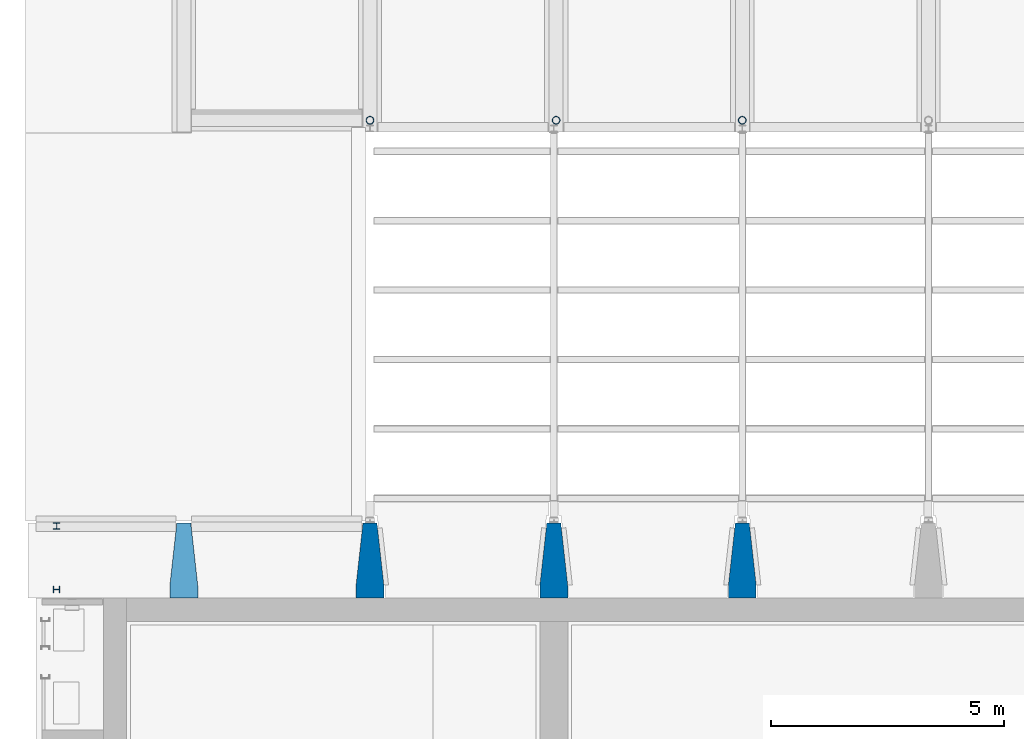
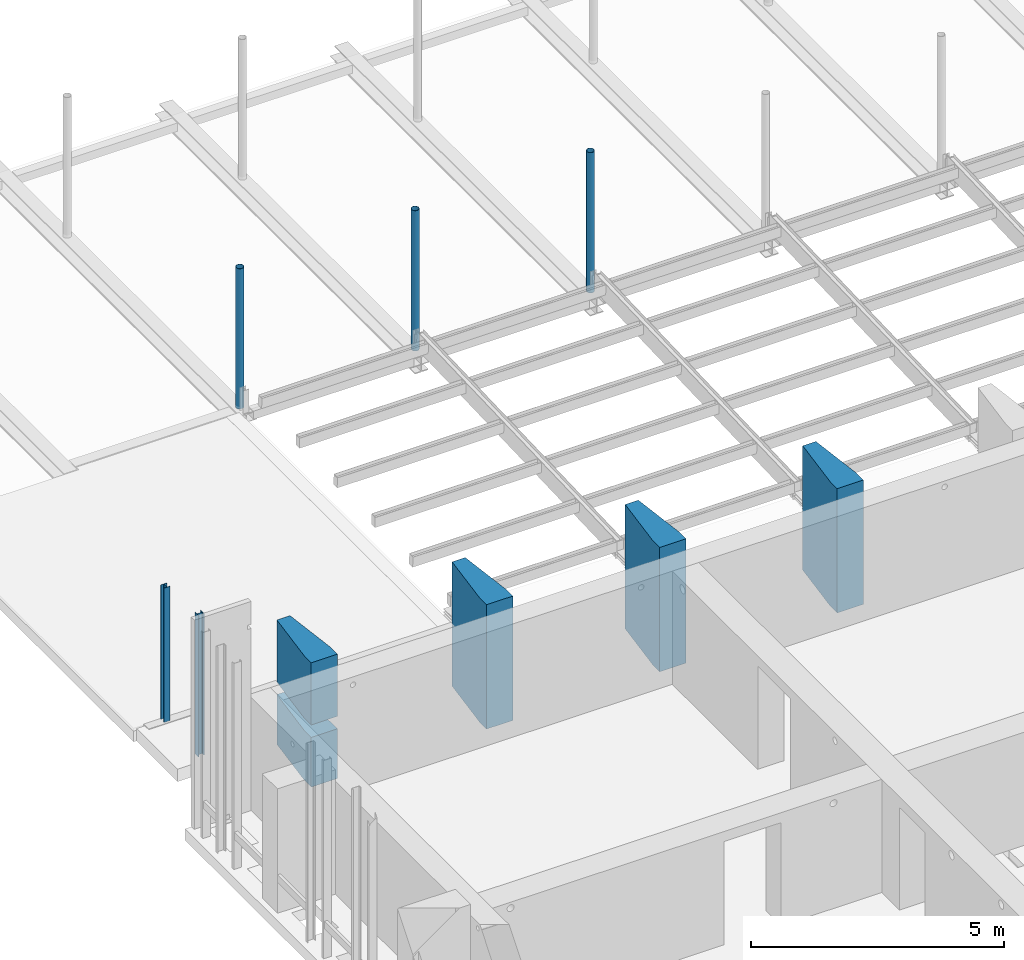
# One storey, part 4 of 31: 9 columns.
"""IFC2X3 building model written with IfcOpenShell, lengths in millimetres."""

from ifc_helpers import new_model, entity, si_unit, converted_unit, derived_unit, direction, frame, frame_2d, origin, place, context, subcontext, project, spatial, polyline, circle_curve, parameter, trimmed, segment, composite_curve, hollow_circle, outline, extrude, source, transform, mapped, material, type_object, type_shapes, element, save


model = new_model("IFC2X3")

# Units and contexts
model_context = context("Model", 3, precision=0.01, world=origin(), true_north=direction((6.12303176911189e-17, 1.0)))
body_context = subcontext(model_context, "Body", "Model", "MODEL_VIEW")
ifc_project = project(units=[si_unit("LENGTHUNIT", "METRE", prefix="MILLI"), si_unit("AREAUNIT", "SQUARE_METRE"), si_unit("VOLUMEUNIT", "CUBIC_METRE"), converted_unit("PLANEANGLEUNIT", "DEGREE", entity("IfcRatioMeasure", 0.0174532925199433), si_unit("PLANEANGLEUNIT", "RADIAN"), dimensions=[0, 0, 0, 0, 0, 0, 0]), si_unit("MASSUNIT", "GRAM", prefix="KILO"), derived_unit("MASSDENSITYUNIT", [(si_unit("MASSUNIT", "GRAM", prefix="KILO"), 1), (si_unit("LENGTHUNIT", "METRE"), -3)]), si_unit("TIMEUNIT", "SECOND"), si_unit("FREQUENCYUNIT", "HERTZ"), si_unit("THERMODYNAMICTEMPERATUREUNIT", "DEGREE_CELSIUS"), derived_unit("THERMALTRANSMITTANCEUNIT", [(si_unit("MASSUNIT", "GRAM", prefix="KILO"), 1), (si_unit("THERMODYNAMICTEMPERATUREUNIT", "KELVIN"), -1), (si_unit("TIMEUNIT", "SECOND"), -3)]), derived_unit("VOLUMETRICFLOWRATEUNIT", [(si_unit("LENGTHUNIT", "METRE"), 3), (si_unit("TIMEUNIT", "SECOND"), -1)]), si_unit("ELECTRICCURRENTUNIT", "AMPERE"), si_unit("ELECTRICVOLTAGEUNIT", "VOLT"), si_unit("POWERUNIT", "WATT"), si_unit("FORCEUNIT", "NEWTON", prefix="KILO"), si_unit("ILLUMINANCEUNIT", "LUX"), si_unit("LUMINOUSFLUXUNIT", "LUMEN"), si_unit("LUMINOUSINTENSITYUNIT", "CANDELA"), derived_unit("USERDEFINED", [(si_unit("MASSUNIT", "GRAM", prefix="KILO"), -1), (si_unit("LENGTHUNIT", "METRE"), -2), (si_unit("TIMEUNIT", "SECOND"), 3), (si_unit("LUMINOUSFLUXUNIT", "LUMEN"), 1)]), derived_unit("LINEARVELOCITYUNIT", [(si_unit("LENGTHUNIT", "METRE"), 1), (si_unit("TIMEUNIT", "SECOND"), -1)]), si_unit("PRESSUREUNIT", "PASCAL"), derived_unit("USERDEFINED", [(si_unit("LENGTHUNIT", "METRE"), -2), (si_unit("MASSUNIT", "GRAM", prefix="KILO"), 1), (si_unit("TIMEUNIT", "SECOND"), -2)])], contexts=[model_context])

# Site, building, storey
site_placement = place(None, origin())
site = spatial("IfcSite", under=ifc_project, at=site_placement, Name="Default", CompositionType="ELEMENT")
building_placement = place(site_placement, origin())
building = spatial("IfcBuilding", under=site, at=building_placement, Name="niet gebruiken", CompositionType="ELEMENT")
storey_placement = place(building_placement, frame((0.0, 0.0, 12000.0)))
storey = spatial("IfcBuildingStorey", under=building, at=storey_placement, Name="03 derde verdieping", CompositionType="ELEMENT", Elevation=12000.0)

# Columns
ifc_material_1 = material(Name="NLRS_f2_beton ihwg")
column_type_1 = type_object("IfcColumnType", Name="600/300x2120/770", PredefinedType="COLUMN", material=ifc_material_1)
shared_shape_1 = source(origin(), body_context, "Body", "SweptSolid", [
    extrude(outline(polyline([(360.0, -300.0), (630.0, -300.0), (630.0, 300.0), (360.0, 300.0), (-990.0, 150.0), (-990.0, -150.0), (360.0, -300.0)])), frame((139750.0, 33860.0, 11910.0), z_axis=(0.0, 0.0, 1.0), x_axis=(0.0, -1.0, 0.0)), (0.0, 0.0, 1.0), 3000.0),
])
type_shapes(column_type_1, [shared_shape_1])
column_1_placement = place(storey_placement, frame((0.0, 0.0, -12000.0)))
element("IfcColumn", 1, at=column_1_placement, inside=storey, type_object=column_type_1, material=ifc_material_1, Name="NLRS_28.11_SCO_TLB_beton kolom ihwg V vorm_gen:600/300x2120/770", ObjectType="600/300x2120/770", context=body_context, shape_type="MappedRepresentation", body=[
    mapped(shared_shape_1, transform((0.0, 0.0, 0.0), scale=1.0)),
])
column_type_2 = type_object("IfcColumnType", Name="600/300x2120/770", PredefinedType="COLUMN", material=ifc_material_1)
shared_shape_2 = source(origin(), body_context, "Body", "SweptSolid", [
    extrude(outline(polyline([(360.0, -300.0), (630.0, -300.0), (630.0, 300.0), (360.0, 300.0), (-990.0, 150.0), (-990.0, -150.0), (360.0, -300.0)])), frame((135700.0, 33860.0, 11910.0), z_axis=(0.0, 0.0, 1.0), x_axis=(0.0, -1.0, 0.0)), (0.0, 0.0, 1.0), 3000.0),
])
type_shapes(column_type_2, [shared_shape_2])
column_2_placement = place(storey_placement, frame((0.0, 0.0, -12000.0)))
element("IfcColumn", 2, at=column_2_placement, inside=storey, type_object=column_type_2, material=ifc_material_1, Name="NLRS_28.11_SCO_TLB_beton kolom ihwg V vorm_gen:600/300x2120/770", ObjectType="600/300x2120/770", context=body_context, shape_type="MappedRepresentation", body=[
    mapped(shared_shape_2, transform((0.0, 0.0, 0.0), scale=1.0)),
])
column_type_3 = type_object("IfcColumnType", Name="600/300x2120/770", PredefinedType="COLUMN", material=ifc_material_1)
shared_shape_3 = source(origin(), body_context, "Body", "SweptSolid", [
    extrude(outline(polyline([(360.0, -300.0), (630.0, -300.0), (630.0, 300.0), (360.0, 300.0), (-990.0, 150.0), (-990.0, -150.0), (360.0, -300.0)])), frame((131750.0, 33860.0, 11910.0), z_axis=(0.0, 0.0, 1.0), x_axis=(0.0, -1.0, 0.0)), (0.0, 0.0, 1.0), 3000.0),
])
type_shapes(column_type_3, [shared_shape_3])
column_3_placement = place(storey_placement, frame((0.0, 0.0, -12000.0)))
element("IfcColumn", 3, at=column_3_placement, inside=storey, type_object=column_type_3, material=ifc_material_1, Name="NLRS_28.11_SCO_TLB_beton kolom ihwg V vorm_gen:600/300x2120/770", ObjectType="600/300x2120/770", context=body_context, shape_type="MappedRepresentation", body=[
    mapped(shared_shape_3, transform((0.0, 0.0, 0.0), scale=1.0)),
])
column_type_4 = type_object("IfcColumnType", Name="600/300x2120/770", PredefinedType="COLUMN", material=ifc_material_1)
shared_shape_4 = source(origin(), body_context, "Body", "SweptSolid", [
    extrude(outline(polyline([(360.0, -300.0), (630.0, -300.0), (630.0, 300.0), (360.0, 300.0), (-990.0, 150.0), (-990.0, -150.0), (360.0, -300.0)])), frame((127750.0, 33860.0, 13410.0), z_axis=(0.0, 0.0, 1.0), x_axis=(0.0, -1.0, 0.0)), (0.0, 0.0, 1.0), 1500.0),
    extrude(outline(polyline([(360.0, -300.0), (630.0, -300.0), (630.0, 300.0), (360.0, 300.0), (-990.0, 150.0), (-990.0, -150.0), (360.0, -300.0)])), frame((127750.0, 33860.0, 11910.0), z_axis=(0.0, 0.0, 1.0), x_axis=(0.0, -1.0, 0.0)), (0.0, 0.0, 1.0), 1200.0),
])
type_shapes(column_type_4, [shared_shape_4])
column_4_placement = place(storey_placement, frame((0.0, 0.0, -12000.0)))
element("IfcColumn", 4, at=column_4_placement, inside=storey, type_object=column_type_4, material=ifc_material_1, Name="NLRS_28.11_SCO_TLB_beton kolom ihwg V vorm_gen:600/300x2120/770", ObjectType="600/300x2120/770", context=body_context, shape_type="MappedRepresentation", body=[
    mapped(shared_shape_4, transform((0.0, 0.0, 0.0), scale=1.0)),
])
ifc_material_2 = material(Name="NLRS_h2_staal")
column_type_5 = type_object("IfcColumnType", Name="kolom buisprofiel rond CHS_168.3x8", PredefinedType="COLUMN", material=ifc_material_2)
shared_shape_5 = source(origin(), body_context, "Body", "SweptSolid", [
    extrude(hollow_circle(Radius=84.15, WallThickness=8.0, at=frame_2d((-7.74492256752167e-19, -1.35948075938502e-13), x_axis=(1.0, 0.0))), frame((0.0, 0.0, 13355.0)), (0.0, 0.0, 1.0), 3385.00000000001),
])
type_shapes(column_type_5, [shared_shape_5])
for number, where, name in (
    (5, (131750.0, 43500.0, -12000.0), "NLRS_28.11_SCO_TLB_stalen kolom buisprofiel rond_gen:kolom buisprofiel rond CHS_168.3x8"),
    (6, (135750.0, 43500.0, -12000.0), "NLRS_28.11_SCO_TLB_stalen kolom buisprofiel rond_gen:kolom buisprofiel rond CHS_168.3x8"),
    (7, (139750.0, 43500.0, -12000.0), "NLRS_28.11_SCO_TLB_stalen kolom buisprofiel rond_gen:kolom buisprofiel rond CHS_168.3x8"),
):
    element("IfcColumn", number, at=place(storey_placement, frame(where)), inside=storey, type_object=column_type_5, material=ifc_material_2, Name=name, ObjectType="kolom buisprofiel rond CHS_168.3x8", context=body_context, shape_type="MappedRepresentation", body=[
        mapped(shared_shape_5, transform((0.0, 0.0, 0.0), scale=1.0)),
    ])
column_type_6 = type_object("IfcColumnType", Name="kolom HEA 140", PredefinedType="COLUMN", material=ifc_material_2)
shared_shape_6 = source(origin(), body_context, "Body", "SweptSolid", [
    extrude(outline(composite_curve([segment(polyline([(58.0, -70.0), (66.4999999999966, -70.0)]), True, "CONTINUOUS"), segment(polyline([(66.4999999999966, -70.0), (66.4999999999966, 70.0)]), True, "CONTINUOUS"), segment(polyline([(66.4999999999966, 70.0), (58.0, 70.0)]), True, "CONTINUOUS"), segment(polyline([(58.0, 70.0), (58.0, 14.7499999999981)]), True, "CONTINUOUS"), segment(trimmed(circle_curve(frame_2d((46.0, 14.7499999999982), x_axis=(1.0, 0.0)), 12.0), [parameter(270.0)], [parameter(0.0)], True, "PARAMETER"), False, "CONTINUOUS"), segment(polyline([(46.0, 2.74999999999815), (-46.0, 2.74999999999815)]), True, "CONTINUOUS"), segment(trimmed(circle_curve(frame_2d((-46.0, 14.7499999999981), x_axis=(0.0, -1.0)), 12.0), [parameter(270.0)], [parameter(0.0)], True, "PARAMETER"), False, "CONTINUOUS"), segment(polyline([(-58.0, 14.7499999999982), (-58.0, 70.0)]), True, "CONTINUOUS"), segment(polyline([(-58.0, 70.0), (-66.4999999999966, 70.0)]), True, "CONTINUOUS"), segment(polyline([(-66.4999999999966, 70.0), (-66.4999999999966, -70.0)]), True, "CONTINUOUS"), segment(polyline([(-66.4999999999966, -70.0), (-58.0, -70.0)]), True, "CONTINUOUS"), segment(polyline([(-58.0, -70.0), (-58.0, -14.7500000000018)]), True, "CONTINUOUS"), segment(trimmed(circle_curve(frame_2d((-46.0, -14.7500000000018), x_axis=(-1.0, 0.0)), 12.0), [parameter(270.0)], [parameter(0.0)], True, "PARAMETER"), False, "CONTINUOUS"), segment(polyline([(-46.0, -2.75000000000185), (46.0, -2.75000000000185)]), True, "CONTINUOUS"), segment(trimmed(circle_curve(frame_2d((46.0, -14.7500000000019), x_axis=(0.0, 1.0)), 12.0), [parameter(270.0)], [parameter(0.0)], True, "PARAMETER"), False, "CONTINUOUS"), segment(polyline([(58.0, -14.7500000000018), (58.0, -70.0)]), True, "CONTINUOUS")], self_intersect=False)), frame((0.0, 0.0, 13440.0), z_axis=(0.0, 0.0, 1.0), x_axis=(0.0, -1.0, 0.0)), (0.0, 0.0, 1.0), 3411.99999999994),
])
type_shapes(column_type_6, [shared_shape_6])
column_5_placement = place(storey_placement, frame((125014.0, 33420.0, -12000.0), z_axis=(0.0, 0.0, 1.0), x_axis=(0.0, 1.0, 0.0)))
element("IfcColumn", 8, at=column_5_placement, inside=storey, type_object=column_type_6, material=ifc_material_2, Name="NLRS_28.11_SCO_TLB_stalen kolom HEA_gen:kolom HEA 140", ObjectType="kolom HEA 140", context=body_context, shape_type="MappedRepresentation", body=[
    mapped(shared_shape_6, transform((0.0, 0.0, 0.0), scale=1.0)),
])
column_type_7 = type_object("IfcColumnType", Name="kolom HEA 140", PredefinedType="COLUMN", material=ifc_material_2)
shared_shape_7 = source(origin(), body_context, "Body", "SweptSolid", [
    extrude(outline(composite_curve([segment(polyline([(58.0, -70.0), (66.4999999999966, -70.0)]), True, "CONTINUOUS"), segment(polyline([(66.4999999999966, -70.0), (66.4999999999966, 70.0)]), True, "CONTINUOUS"), segment(polyline([(66.4999999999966, 70.0), (58.0, 70.0)]), True, "CONTINUOUS"), segment(polyline([(58.0, 70.0), (58.0, 14.7499999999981)]), True, "CONTINUOUS"), segment(trimmed(circle_curve(frame_2d((46.0, 14.7499999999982), x_axis=(1.0, 0.0)), 12.0), [parameter(270.0)], [parameter(0.0)], True, "PARAMETER"), False, "CONTINUOUS"), segment(polyline([(46.0, 2.74999999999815), (-46.0, 2.74999999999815)]), True, "CONTINUOUS"), segment(trimmed(circle_curve(frame_2d((-46.0, 14.7499999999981), x_axis=(0.0, -1.0)), 12.0), [parameter(270.0)], [parameter(0.0)], True, "PARAMETER"), False, "CONTINUOUS"), segment(polyline([(-58.0, 14.7499999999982), (-58.0, 70.0)]), True, "CONTINUOUS"), segment(polyline([(-58.0, 70.0), (-66.4999999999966, 70.0)]), True, "CONTINUOUS"), segment(polyline([(-66.4999999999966, 70.0), (-66.4999999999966, -70.0)]), True, "CONTINUOUS"), segment(polyline([(-66.4999999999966, -70.0), (-58.0, -70.0)]), True, "CONTINUOUS"), segment(polyline([(-58.0, -70.0), (-58.0, -14.7500000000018)]), True, "CONTINUOUS"), segment(trimmed(circle_curve(frame_2d((-46.0, -14.7500000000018), x_axis=(-1.0, 0.0)), 12.0), [parameter(270.0)], [parameter(0.0)], True, "PARAMETER"), False, "CONTINUOUS"), segment(polyline([(-46.0, -2.75000000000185), (46.0, -2.75000000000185)]), True, "CONTINUOUS"), segment(trimmed(circle_curve(frame_2d((46.0, -14.7500000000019), x_axis=(0.0, 1.0)), 12.0), [parameter(270.0)], [parameter(0.0)], True, "PARAMETER"), False, "CONTINUOUS"), segment(polyline([(58.0, -14.7500000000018), (58.0, -70.0)]), True, "CONTINUOUS")], self_intersect=False)), frame((0.0, 0.0, 13440.0), z_axis=(0.0, 0.0, 1.0), x_axis=(0.0, -1.0, 0.0)), (0.0, 0.0, 1.0), 3244.99999999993),
])
type_shapes(column_type_7, [shared_shape_7])
column_6_placement = place(storey_placement, frame((125017.500000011, 34783.5000000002, -12000.0)))
element("IfcColumn", 9, at=column_6_placement, inside=storey, type_object=column_type_7, material=ifc_material_2, Name="NLRS_28.11_SCO_TLB_stalen kolom HEA_gen:kolom HEA 140", ObjectType="kolom HEA 140", context=body_context, shape_type="MappedRepresentation", body=[
    mapped(shared_shape_7, transform((0.0, 0.0, 0.0), scale=1.0)),
])

save(model, "model.ifc")
